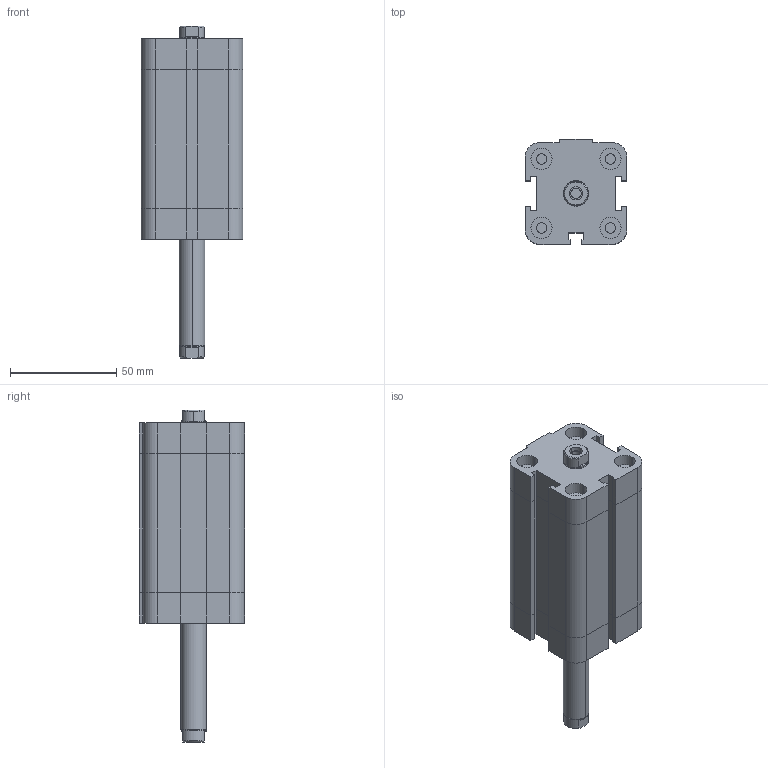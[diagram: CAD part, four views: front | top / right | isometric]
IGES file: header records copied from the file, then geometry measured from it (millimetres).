
Global section: file name: No Iges File Name specified; native system: Autodesk Inventor 2009; preprocessor: AutoDesk Inventor Iges Exporter R2009; author: maffial1; date: 20090420.200341; units: millimetre
Bounding box: 48 x 49.5 x 156.5 mm (x, y, z)
Volume: 198065.3 mm3; surface area: 39526 mm2
Topology: 2 solids, 2 shells, 202 faces, 450 edges, 274 vertices
Faces by surface type: plane 114, bspline 42, revolution 20, cylinder 18, cone 8
